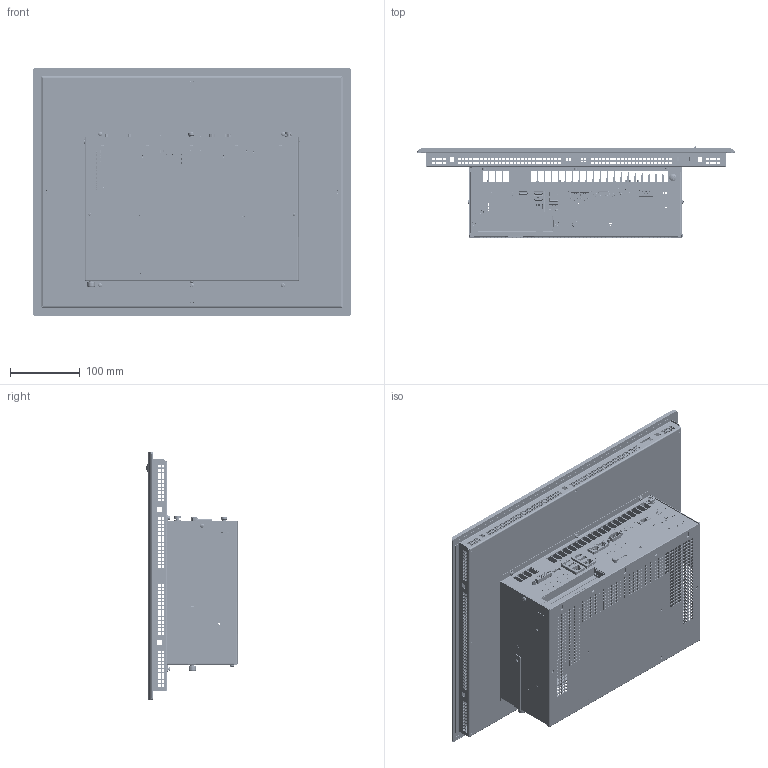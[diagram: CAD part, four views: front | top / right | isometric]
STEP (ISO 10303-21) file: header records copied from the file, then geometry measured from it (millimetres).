
FILE_DESCRIPTION (( 'STEP AP214' ), '1' );
FILE_NAME ('C6P34-Panel_170_Res_S1.STEP', '2019-09-19T15:25:27', ( '' ), ( '' ), 'SwSTEP 2.0', 'SolidWorks 2018', '' );
FILE_SCHEMA (( 'AUTOMOTIVE_DESIGN' ));
Length unit declared in the file: millimetre
Products named in the file (157): 23330039; 65720029; 21410056; 51524089; 57902481; 62920002; 69111027; 52912002; 21410046; 14300025; 66320015; 65720078; 65720030; 21410015; piazzuola_de800_di370; 58102117; 7397_227; 66320016; 58702102; 21408088; 66320001; 14300028; C6P34-Panel_170_Res_S1; 59702267; 21404036; 55202070; 57902482; 21509026; 52536147; 21405029; 21614000; 51702303; 48000034; 58502114; 59302346; 69112004; D02201701; 7397_227_Depopolato; 57936014; 56635572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
Assembly tree (111 placements, depth 4):
  23330039
  65720029
  21410056
  51524089
  57902481
Bounding box: 455 x 130.34 x 355 mm (x, y, z)
Volume: 1568587.6 mm3; surface area: 1705804 mm2
Topology: 192 solids, 210 shells, 25535 faces, 71797 edges, 47004 vertices
Faces by surface type: plane 19635, cylinder 4475, bspline 775, cone 519, torus 111, sphere 20
Full cylindrical faces by diameter (mm): 0.3 x9, 0.434 x1, 0.6 x30, 0.65 x6, 0.7 x165, 0.8 x36, 0.85 x66, 0.9 x175, 0.95 x11, 1 x119, 1.1 x3, 1.2 x10, 1.32 x2, 1.35 x4, 1.4 x8, 1.5 x6, 1.6 x7, 1.7 x4, 1.8 x3, 1.9 x4, 1.95 x4, 2 x1, 2.05 x1, 2.3 x18, 2.4 x9, 2.5 x18, 2.6 x5, 2.8 x3, 2.874 x1, 3 x46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
Entity records: 760493 total; most frequent: CARTESIAN_POINT 161964, ORIENTED_EDGE 123438, DIRECTION 109331, EDGE_CURVE 62109, VECTOR 52135, LINE 52135, VERTEX_POINT 41267, EDGE_LOOP 29201
